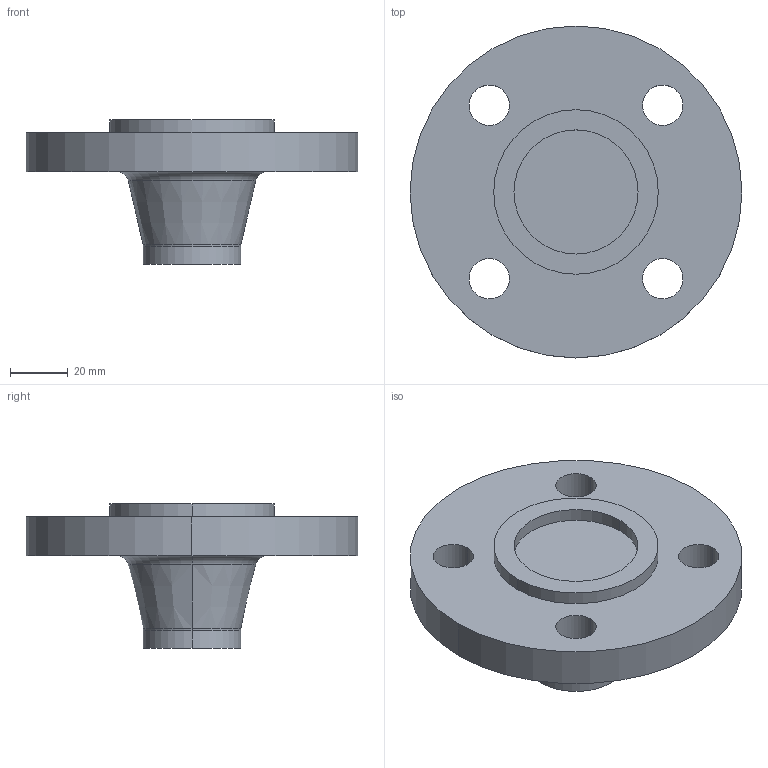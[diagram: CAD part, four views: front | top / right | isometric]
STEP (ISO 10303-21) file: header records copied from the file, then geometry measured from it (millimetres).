
FILE_DESCRIPTION (( 'STEP AP214' ), '1' );
FILE_NAME ('PN40 DN25 Type 21(ii) - Type C Face.STEP', '2018-12-29T20:15:13', ( '' ), ( '' ), 'SwSTEP 2.0', 'SolidWorks 2019', '' );
FILE_SCHEMA (( 'AUTOMOTIVE_DESIGN' ));
Length unit declared in the file: millimetre
Products named in the file (1): PN40 DN25 Type 21(ii) - Type C Face
Bounding box: 115 x 115 x 50 mm (x, y, z)
Volume: 174727.6 mm3; surface area: 31280.6 mm2
Topology: 1 solids, 1 shells, 27 faces, 60 edges, 38 vertices
Faces by surface type: cylinder 16, plane 5, torus 4, cone 2
Entity records: 818 total; most frequent: DIRECTION 158, CARTESIAN_POINT 126, ORIENTED_EDGE 120, AXIS2_PLACEMENT_3D 70, EDGE_CURVE 60, CIRCLE 42, EDGE_LOOP 38, VERTEX_POINT 38
